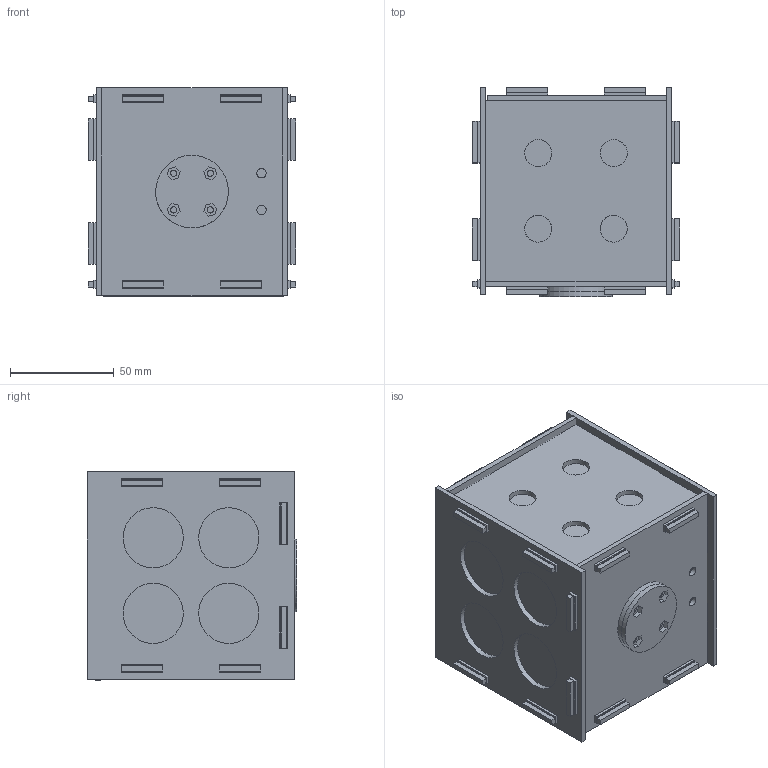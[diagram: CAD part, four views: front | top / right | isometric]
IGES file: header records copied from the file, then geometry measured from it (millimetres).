
Global section: file name: Cubesat_Ensamble_no explosionado; native system: Autodesk Inventor 2022; preprocessor: unknown; author: valen; date: 20220531.022744; units: millimetre
Bounding box: 100 x 100.96 x 100.41 mm (x, y, z)
Volume: 118057.8 mm3; surface area: 171412.9 mm2
Topology: 28 solids, 28 shells, 624 faces, 1667 edges, 1109 vertices
Faces by surface type: bspline 624
